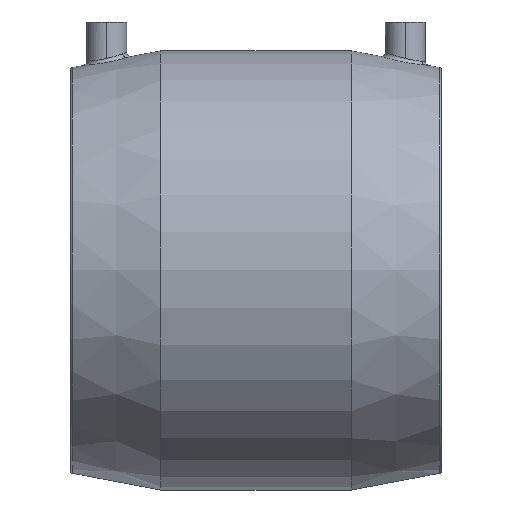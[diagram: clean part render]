
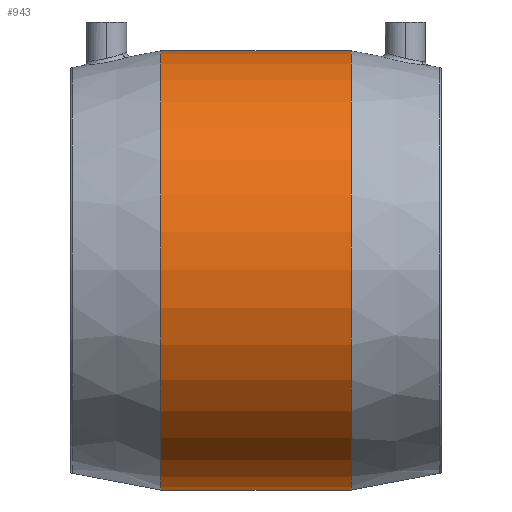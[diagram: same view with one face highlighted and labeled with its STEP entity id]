
A CAD part, top view. The second image highlights one B-rep face of the part: STEP entity #943.
In plain terms, the highlighted cylindrical face has radius 109.5 mm (diameter 219 mm), a partial arc.
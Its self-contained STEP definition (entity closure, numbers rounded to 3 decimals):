
#133 = CARTESIAN_POINT ( 'NONE',  ( 45., 0., 0. ) ) ;
#149 = CARTESIAN_POINT ( 'NONE',  ( 45., 109.5, 0. ) ) ;
#245 = AXIS2_PLACEMENT_3D ( 'NONE', #1666, #1805, #1862 ) ;
#256 = VERTEX_POINT ( 'NONE', #1293 ) ;
#276 = VECTOR ( 'NONE', #371, 1000. ) ;
#328 = CARTESIAN_POINT ( 'NONE',  ( 0., -109.5, 0. ) ) ;
#336 = LINE ( 'NONE', #328, #276 ) ;
#347 = EDGE_CURVE ( 'NONE', #1678, #1928, #523, .T. ) ;
#371 = DIRECTION ( 'NONE',  ( -1., 0., 0. ) ) ;
#482 = DIRECTION ( 'NONE',  ( 0., -1., 0. ) ) ;
#523 = CIRCLE ( 'NONE', #803, 109.5 ) ;
#611 = ORIENTED_EDGE ( 'NONE', *, *, #1753, .T. ) ;
#803 = AXIS2_PLACEMENT_3D ( 'NONE', #133, #868, #482 ) ;
#868 = DIRECTION ( 'NONE',  ( -1., 0., 0. ) ) ;
#880 = VECTOR ( 'NONE', #2412, 1000. ) ;
#939 = CARTESIAN_POINT ( 'NONE',  ( 0., 0., 0. ) ) ;
#943 = ADVANCED_FACE ( 'NONE', ( #2223 ), #1695, .T. ) ;
#955 = DIRECTION ( 'NONE',  ( -1., 0., 0. ) ) ;
#989 = ORIENTED_EDGE ( 'NONE', *, *, #2313, .F. ) ;
#1244 = ORIENTED_EDGE ( 'NONE', *, *, #1552, .T. ) ;
#1293 = CARTESIAN_POINT ( 'NONE',  ( 140., 109.5, 0. ) ) ;
#1301 = DIRECTION ( 'NONE',  ( 0., -1., 0. ) ) ;
#1424 = LINE ( 'NONE', #2400, #880 ) ;
#1552 = EDGE_CURVE ( 'NONE', #256, #1928, #1424, .T. ) ;
#1621 = CARTESIAN_POINT ( 'NONE',  ( 140., -109.5, 0. ) ) ;
#1661 = AXIS2_PLACEMENT_3D ( 'NONE', #939, #955, #1301 ) ;
#1666 = CARTESIAN_POINT ( 'NONE',  ( 140., 0., 0. ) ) ;
#1678 = VERTEX_POINT ( 'NONE', #2418 ) ;
#1695 = CYLINDRICAL_SURFACE ( 'NONE', #1661, 109.5 ) ;
#1744 = VERTEX_POINT ( 'NONE', #1621 ) ;
#1753 = EDGE_CURVE ( 'NONE', #1744, #256, #2245, .T. ) ;
#1805 = DIRECTION ( 'NONE',  ( -1., 0., 0. ) ) ;
#1862 = DIRECTION ( 'NONE',  ( 0., -1., 0. ) ) ;
#1928 = VERTEX_POINT ( 'NONE', #149 ) ;
#1967 = ORIENTED_EDGE ( 'NONE', *, *, #347, .F. ) ;
#2223 = FACE_OUTER_BOUND ( 'NONE', #2335, .T. ) ;
#2245 = CIRCLE ( 'NONE', #245, 109.5 ) ;
#2313 = EDGE_CURVE ( 'NONE', #1744, #1678, #336, .T. ) ;
#2335 = EDGE_LOOP ( 'NONE', ( #611, #1244, #1967, #989 ) ) ;
#2400 = CARTESIAN_POINT ( 'NONE',  ( 0., 109.5, 0. ) ) ;
#2412 = DIRECTION ( 'NONE',  ( -1., 0., 0. ) ) ;
#2418 = CARTESIAN_POINT ( 'NONE',  ( 45., -109.5, 0. ) ) ;
